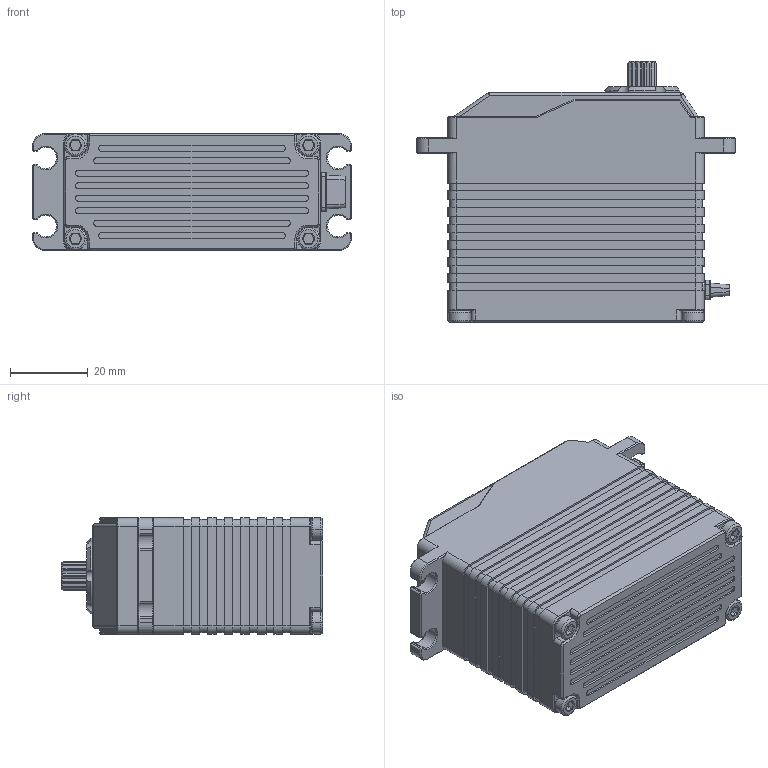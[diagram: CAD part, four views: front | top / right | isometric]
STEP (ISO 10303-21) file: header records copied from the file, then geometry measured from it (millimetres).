
FILE_DESCRIPTION((''),'2;1');
FILE_NAME('DDJ-80KG2-A280','2023-11-20T',('Administrator'),(''),'PRO/ENGINEER BY PARAMETRIC TECHNOLOGY CORPORATION, 2010280','PRO/ENGINEER BY PARAMETRIC TECHNOLOGY CORPORATION, 2010280','');
FILE_SCHEMA(('CONFIG_CONTROL_DESIGN','SHAPE_APPEARANCE_LAYERS_GROUPS'));
Length unit declared in the file: millimetre
Products named in the file (1): DDJ-80KG2-A280
Bounding box: 81.8 x 67 x 30 mm (x, y, z)
Volume: 114240.9 mm3; surface area: 18199.7 mm2
Topology: 1 solids, 1 shells, 746 faces, 1911 edges, 1198 vertices
Faces by surface type: plane 296, cylinder 294, cone 88, torus 48, bspline 16, sphere 4
Entity records: 32505 total; most frequent: CARTESIAN_POINT 7386, DIRECTION 3911, ORIENTED_EDGE 3818, PRESENTATION_STYLE_ASSIGNMENT 1997, STYLED_ITEM 1910, CURVE_STYLE 1909, EDGE_CURVE 1909, AXIS2_PLACEMENT_3D 1427
